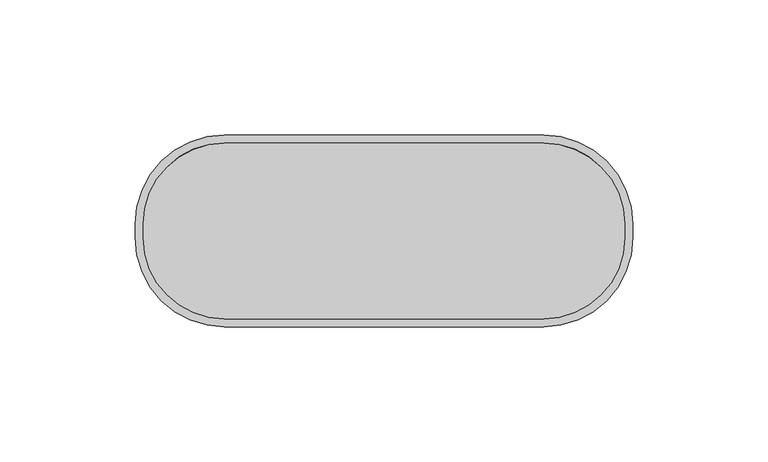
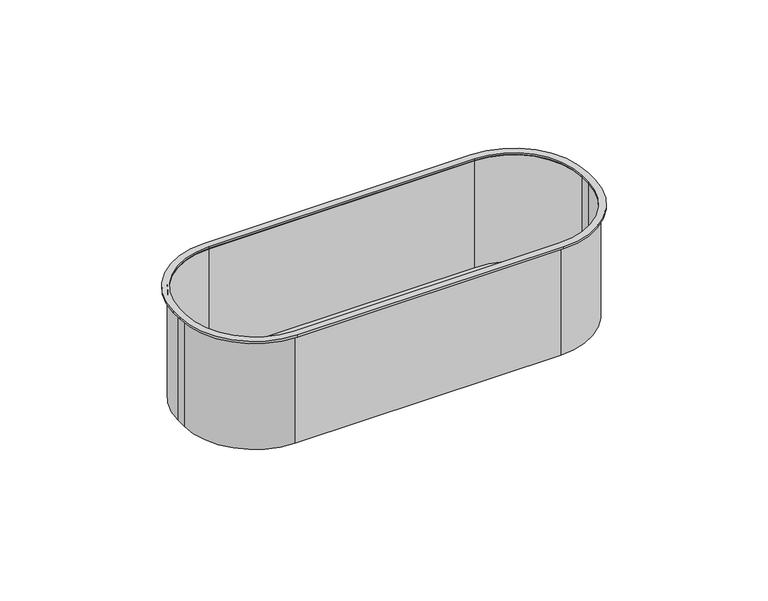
"""IFC4 building model written with IfcOpenShell, lengths in millimetres: proxy geometry, 00-Scatola da cartongesso : Scatola 7 moduli in linea."""

from ifc_helpers import new_model, si_unit, point, frame, frame_2d, origin, origin_with_axes, place, context, project, spatial, polyline, circle_curve, trimmed, segment, composite_curve, outline, extrude, source, transform, mapped, element, save


def electrical_fixtures_8cdb0c98(model_context):
    return source(origin(), model_context, "Body", "SweptSolid", [
        extrude(outline(composite_curve([segment(trimmed(circle_curve(frame_2d((59.0, 2.5)), 30.0), [point((59.0, 32.5))], [point((89.0, 2.5))], False, "CARTESIAN"), True, "CONTINUOUS"), segment(polyline([(89.0, 2.5), (89.0, -2.5)]), True, "CONTINUOUS"), segment(trimmed(circle_curve(frame_2d((59.0, -2.5)), 30.0), [point((89.0, -2.5))], [point((59.0, -32.5))], False, "CARTESIAN"), True, "CONTINUOUS"), segment(polyline([(59.0, -32.5), (-59.0, -32.5)]), True, "CONTINUOUS"), segment(trimmed(circle_curve(frame_2d((-59.0, -2.5)), 30.0), [point((-59.0, -32.5))], [point((-89.0, -2.5))], False, "CARTESIAN"), True, "CONTINUOUS"), segment(polyline([(-89.0, -2.5), (-89.0, 2.5)]), True, "CONTINUOUS"), segment(trimmed(circle_curve(frame_2d((-59.0, 2.5)), 30.0), [point((-89.0, 2.5))], [point((-59.0, 32.5))], False, "CARTESIAN"), True, "CONTINUOUS"), segment(polyline([(-59.0, 32.5), (59.0, 32.5)]), True, "CONTINUOUS")], self_intersect=False)), frame((0.0, 0.0, -51.0), z_axis=(0.0, 0.0, 1.0), x_axis=(1.0, 0.0, 0.0)), (0.0, 0.0, 1.0), 1.0),
        extrude(outline(composite_curve([segment(trimmed(circle_curve(frame_2d((59.0, 2.5)), 31.0), [point((59.0, 33.5))], [point((90.0, 2.5))], False, "CARTESIAN"), True, "CONTINUOUS"), segment(polyline([(90.0, 2.5), (90.0, -2.5)]), True, "CONTINUOUS"), segment(trimmed(circle_curve(frame_2d((59.0, -2.5)), 31.0), [point((90.0, -2.5))], [point((59.0, -33.5))], False, "CARTESIAN"), True, "CONTINUOUS"), segment(polyline([(59.0, -33.5), (-59.0, -33.5)]), True, "CONTINUOUS"), segment(trimmed(circle_curve(frame_2d((-59.0, -2.5)), 31.0), [point((-59.0, -33.5))], [point((-90.0, -2.5))], False, "CARTESIAN"), True, "CONTINUOUS"), segment(polyline([(-90.0, -2.5), (-90.0, 2.5)]), True, "CONTINUOUS"), segment(trimmed(circle_curve(frame_2d((-59.0, 2.5)), 31.0), [point((-90.0, 2.5))], [point((-59.0, 33.5))], False, "CARTESIAN"), True, "CONTINUOUS"), segment(polyline([(-59.0, 33.5), (59.0, 33.5)]), True, "CONTINUOUS")], self_intersect=False), holes=[composite_curve([segment(polyline([(59.0, 32.5), (-59.0, 32.5)]), True, "CONTINUOUS"), segment(trimmed(circle_curve(frame_2d((-59.0, 2.5)), 30.0), [point((-59.0, 32.5))], [point((-89.0, 2.5))], True, "CARTESIAN"), True, "CONTINUOUS"), segment(polyline([(-89.0, 2.5), (-89.0, -2.5)]), True, "CONTINUOUS"), segment(trimmed(circle_curve(frame_2d((-59.0, -2.5)), 30.0), [point((-89.0, -2.5))], [point((-59.0, -32.5))], True, "CARTESIAN"), True, "CONTINUOUS"), segment(polyline([(-59.0, -32.5), (59.0, -32.5)]), True, "CONTINUOUS"), segment(trimmed(circle_curve(frame_2d((59.0, -2.5)), 30.0), [point((59.0, -32.5))], [point((89.0, -2.5))], True, "CARTESIAN"), True, "CONTINUOUS"), segment(polyline([(89.0, -2.5), (89.0, 2.5)]), True, "CONTINUOUS"), segment(trimmed(circle_curve(frame_2d((59.0, 2.5)), 30.0), [point((89.0, 2.5))], [point((59.0, 32.5))], True, "CARTESIAN"), True, "CONTINUOUS")], self_intersect=False)]), frame((0.0, 0.0, -51.0), z_axis=(0.0, 0.0, 1.0), x_axis=(1.0, 0.0, 0.0)), (0.0, 0.0, 1.0), 51.0),
        extrude(outline(composite_curve([segment(trimmed(circle_curve(frame_2d((59.0, 2.5)), 33.0), [point((59.0, 35.5))], [point((92.0, 2.5))], False, "CARTESIAN"), True, "CONTINUOUS"), segment(polyline([(92.0, 2.5), (92.0, -2.5)]), True, "CONTINUOUS"), segment(trimmed(circle_curve(frame_2d((59.0, -2.5)), 33.0), [point((92.0, -2.5))], [point((59.0, -35.5))], False, "CARTESIAN"), True, "CONTINUOUS"), segment(polyline([(59.0, -35.5), (-59.0, -35.5)]), True, "CONTINUOUS"), segment(trimmed(circle_curve(frame_2d((-59.0, -2.5)), 33.0), [point((-59.0, -35.5))], [point((-92.0, -2.5))], False, "CARTESIAN"), True, "CONTINUOUS"), segment(polyline([(-92.0, -2.5), (-92.0, 2.5)]), True, "CONTINUOUS"), segment(trimmed(circle_curve(frame_2d((-59.0, 2.5)), 33.0), [point((-92.0, 2.5))], [point((-59.0, 35.5))], False, "CARTESIAN"), True, "CONTINUOUS"), segment(polyline([(-59.0, 35.5), (59.0, 35.5)]), True, "CONTINUOUS")], self_intersect=False), holes=[composite_curve([segment(polyline([(59.0, 32.5), (-59.0, 32.5)]), True, "CONTINUOUS"), segment(trimmed(circle_curve(frame_2d((-59.0, 2.5)), 30.0), [point((-59.0, 32.5))], [point((-89.0, 2.5))], True, "CARTESIAN"), True, "CONTINUOUS"), segment(polyline([(-89.0, 2.5), (-89.0, -2.5)]), True, "CONTINUOUS"), segment(trimmed(circle_curve(frame_2d((-59.0, -2.5)), 30.0), [point((-89.0, -2.5))], [point((-59.0, -32.5))], True, "CARTESIAN"), True, "CONTINUOUS"), segment(polyline([(-59.0, -32.5), (59.0, -32.5)]), True, "CONTINUOUS"), segment(trimmed(circle_curve(frame_2d((59.0, -2.5)), 30.0), [point((59.0, -32.5))], [point((89.0, -2.5))], True, "CARTESIAN"), True, "CONTINUOUS"), segment(polyline([(89.0, -2.5), (89.0, 2.5)]), True, "CONTINUOUS"), segment(trimmed(circle_curve(frame_2d((59.0, 2.5)), 30.0), [point((89.0, 2.5))], [point((59.0, 32.5))], True, "CARTESIAN"), True, "CONTINUOUS")], self_intersect=False)]), origin_with_axes(), (0.0, 0.0, 1.0), 1.0),
    ])


if __name__ == "__main__":
    model = new_model("IFC4")
    model_context = context("Model", 3, world=origin())
    ifc_project = project(units=[si_unit("LENGTHUNIT", "METRE", prefix="MILLI")], contexts=[model_context])
    site = spatial("IfcSite", under=ifc_project)
    building = spatial("IfcBuilding", under=site)
    placement = place(None, origin())
    electrical_fixtures_shape = electrical_fixtures_8cdb0c98(model_context)
    element("IfcBuildingElementProxy", 1, Name="00-Scatola da cartongesso : Scatola 7 moduli in linea", ObjectType="00-Scatola da cartongesso : Scatola 7 moduli in linea", at=placement, inside=building, context=model_context, shape_type="MappedRepresentation", body=[
        mapped(electrical_fixtures_shape, transform((0.0, 0.0, 0.0), x_axis=(1.0, 0.0, 0.0), y_axis=(0.0, 1.0, 0.0), z_axis=(0.0, 0.0, 1.0))),
    ])
    save(model, "model.ifc")
